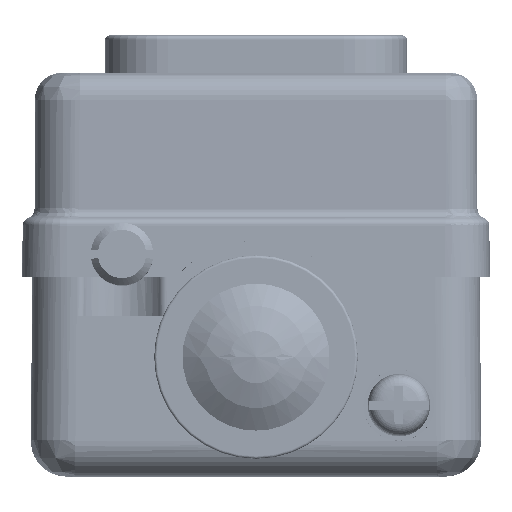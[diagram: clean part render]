
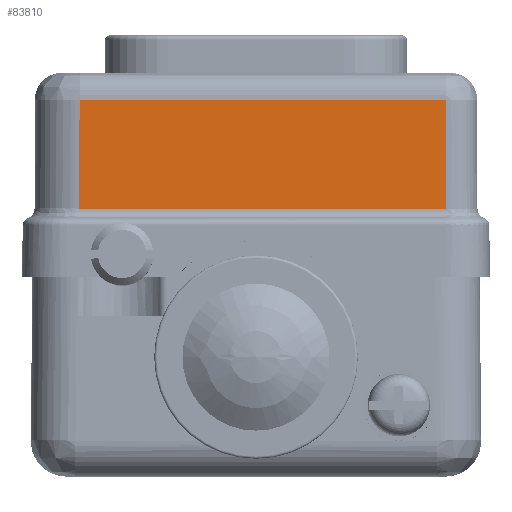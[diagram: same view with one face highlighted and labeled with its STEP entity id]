
A CAD part, left-side view. The second image highlights one B-rep face of the part: STEP entity #83810.
In plain terms, the highlighted planar face has unit normal (-1, 0, 0.004).
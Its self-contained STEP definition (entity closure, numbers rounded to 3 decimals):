
#10581=DIRECTION('',(0.,-1.,0.));
#10582=VECTOR('',#10581,41.008);
#10583=CARTESIAN_POINT('',(0.725,44.968,
14.192));
#10584=LINE('',#10583,#10582);
#10585=DIRECTION('',(-0.003,-0.003,-1.));
#10586=VECTOR('',#10585,12.2);
#10587=CARTESIAN_POINT('',(0.725,3.96,
14.192));
#10588=LINE('',#10587,#10586);
#10589=CARTESIAN_POINT('',(0.682,3.918,
1.992));
#10590=CARTESIAN_POINT('',(0.682,3.976,
1.991));
#10591=CARTESIAN_POINT('',(0.682,4.035,
1.993));
#10592=CARTESIAN_POINT('',(0.682,4.093,
1.993));
#10594=DIRECTION('',(0.,1.,0.));
#10595=VECTOR('',#10594,40.917);
#10596=CARTESIAN_POINT('',(0.682,4.093,
1.993));
#10597=LINE('',#10596,#10595);
#10598=DIRECTION('',(0.003,-0.003,1.));
#10599=VECTOR('',#10598,12.199);
#10600=CARTESIAN_POINT('',(0.682,45.011,
1.993));
#10601=LINE('',#10600,#10599);
#40689=CARTESIAN_POINT('',(0.682,3.918,
1.992));
#49963=VERTEX_POINT('',#40689);
#49964=CARTESIAN_POINT('',(0.682,4.093,
1.993));
#49965=VERTEX_POINT('',#49964);
#49966=CARTESIAN_POINT('',(0.682,45.011,
1.993));
#49967=VERTEX_POINT('',#49966);
#50054=CARTESIAN_POINT('',(0.725,44.968,
14.192));
#50055=VERTEX_POINT('',#50054);
#50056=CARTESIAN_POINT('',(0.725,3.96,
14.192));
#50057=VERTEX_POINT('',#50056);
#83795=CARTESIAN_POINT('',(0.703,24.464,
8.092));
#83796=DIRECTION('',(1.,0.,-0.003));
#83797=DIRECTION('',(0.,1.,0.));
#83798=AXIS2_PLACEMENT_3D('',#83795,#83796,#83797);
#83799=PLANE('',#83798);
#83800=ORIENTED_EDGE('',*,*,#83651,.T.);
#83802=ORIENTED_EDGE('',*,*,#83801,.T.);
#83804=ORIENTED_EDGE('',*,*,#83803,.T.);
#83806=ORIENTED_EDGE('',*,*,#83805,.T.);
#83807=ORIENTED_EDGE('',*,*,#83783,.T.);
#83808=EDGE_LOOP('',(#83800,#83802,#83804,#83806,#83807));
#83809=FACE_OUTER_BOUND('',#83808,.F.);
#83810=ADVANCED_FACE('',(#83809),#83799,.F.);
#10593=B_SPLINE_CURVE_WITH_KNOTS('',3,(#10589,#10590,#10591,#10592),
.UNSPECIFIED.,.F.,.F.,(4,4),(0.,1.),.UNSPECIFIED.);
#83651=EDGE_CURVE('',#50055,#50057,#10584,.T.);
#83783=EDGE_CURVE('',#49967,#50055,#10601,.T.);
#83801=EDGE_CURVE('',#50057,#49963,#10588,.T.);
#83803=EDGE_CURVE('',#49963,#49965,#10593,.T.);
#83805=EDGE_CURVE('',#49965,#49967,#10597,.T.);
